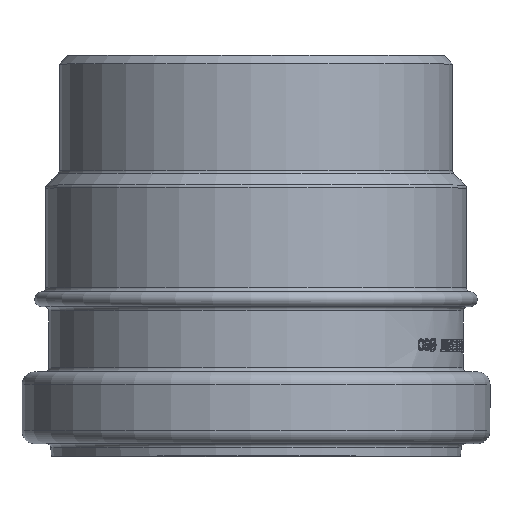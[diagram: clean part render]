
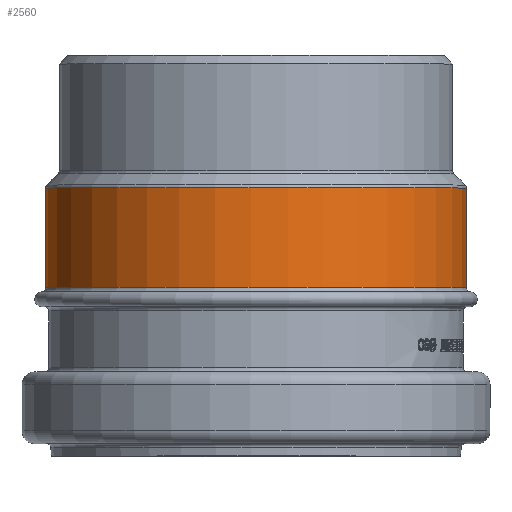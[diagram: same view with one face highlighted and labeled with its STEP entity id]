
A CAD part, top view. The second image highlights one B-rep face of the part: STEP entity #2560.
In plain terms, the highlighted cylindrical face has radius 49.9 mm (diameter 99.8 mm), a full revolution.
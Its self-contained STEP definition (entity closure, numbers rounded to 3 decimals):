
#540=CYLINDRICAL_SURFACE('',#2751,49.9);
#578=FACE_BOUND('',#805,.T.);
#631=FACE_OUTER_BOUND('',#804,.T.);
#804=EDGE_LOOP('',(#1719));
#805=EDGE_LOOP('',(#1720));
#1001=CIRCLE('',#2750,49.9);
#1002=CIRCLE('',#2752,49.9);
#1116=VERTEX_POINT('',#3704);
#1117=VERTEX_POINT('',#3707);
#1359=EDGE_CURVE('',#1116,#1116,#1001,.T.);
#1360=EDGE_CURVE('',#1117,#1117,#1002,.T.);
#1719=ORIENTED_EDGE('',*,*,#1359,.F.);
#1720=ORIENTED_EDGE('',*,*,#1360,.T.);
#2560=ADVANCED_FACE('',(#631,#578),#540,.T.);
#2750=AXIS2_PLACEMENT_3D('',#3705,#3043,#3044);
#2751=AXIS2_PLACEMENT_3D('',#3706,#3045,#3046);
#2752=AXIS2_PLACEMENT_3D('',#3708,#3047,#3048);
#3043=DIRECTION('center_axis',(0.,1.,0.));
#3044=DIRECTION('ref_axis',(0.479,0.,0.878));
#3045=DIRECTION('center_axis',(0.,1.,0.));
#3046=DIRECTION('ref_axis',(1.,0.,0.));
#3047=DIRECTION('center_axis',(0.,1.,0.));
#3048=DIRECTION('ref_axis',(0.479,0.,0.878));
#3704=CARTESIAN_POINT('',(-23.923,63.597,-43.791));
#3705=CARTESIAN_POINT('Origin',(0.,63.597,0.));
#3706=CARTESIAN_POINT('Origin',(0.,47.5,0.));
#3707=CARTESIAN_POINT('',(-23.923,40.,-43.791));
#3708=CARTESIAN_POINT('Origin',(0.,40.,0.));
